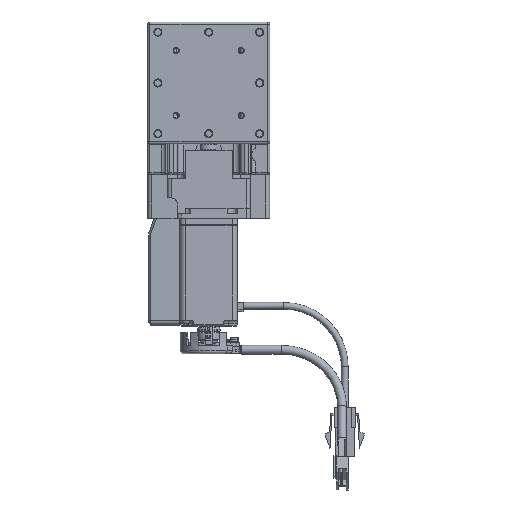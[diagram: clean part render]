
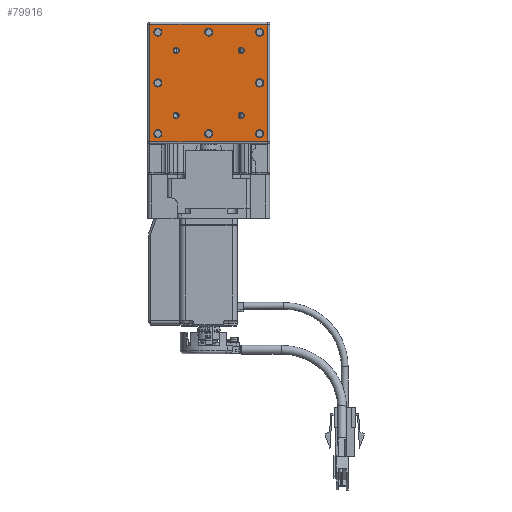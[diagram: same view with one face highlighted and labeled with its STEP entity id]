
A CAD part, top view. The second image highlights one B-rep face of the part: STEP entity #79916.
In plain terms, the highlighted planar face has unit normal (0, 0, 1) as drawn and (0, 1, 0) by its records, which use the part's own axes.
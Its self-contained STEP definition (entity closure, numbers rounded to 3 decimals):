
#1370=LINE('',#121901,#10649);
#1371=LINE('',#121904,#10650);
#1372=LINE('',#121906,#10651);
#1373=LINE('',#121908,#10652);
#10649=VECTOR('',#100546,1000.);
#10650=VECTOR('',#100547,1000.);
#10651=VECTOR('',#100548,1000.);
#10652=VECTOR('',#100549,1000.);
#19866=PLANE('',#94323);
#23331=ORIENTED_EDGE('',*,*,#46875,.F.);
#23332=ORIENTED_EDGE('',*,*,#46878,.F.);
#23333=ORIENTED_EDGE('',*,*,#46881,.F.);
#23334=ORIENTED_EDGE('',*,*,#46884,.F.);
#23335=ORIENTED_EDGE('',*,*,#46887,.F.);
#23336=ORIENTED_EDGE('',*,*,#46890,.F.);
#23337=ORIENTED_EDGE('',*,*,#46893,.F.);
#23338=ORIENTED_EDGE('',*,*,#46896,.F.);
#23339=ORIENTED_EDGE('',*,*,#46899,.F.);
#23340=ORIENTED_EDGE('',*,*,#46902,.F.);
#23341=ORIENTED_EDGE('',*,*,#46906,.F.);
#23342=ORIENTED_EDGE('',*,*,#46910,.F.);
#23343=ORIENTED_EDGE('',*,*,#47007,.T.);
#23344=ORIENTED_EDGE('',*,*,#47008,.T.);
#23345=ORIENTED_EDGE('',*,*,#47009,.T.);
#23346=ORIENTED_EDGE('',*,*,#47010,.T.);
#46875=EDGE_CURVE('',#58750,#58750,#66726,.T.);
#46878=EDGE_CURVE('',#58753,#58753,#66729,.T.);
#46881=EDGE_CURVE('',#58756,#58756,#66732,.T.);
#46884=EDGE_CURVE('',#58759,#58759,#66735,.T.);
#46887=EDGE_CURVE('',#58762,#58762,#66738,.T.);
#46890=EDGE_CURVE('',#58765,#58765,#66741,.T.);
#46893=EDGE_CURVE('',#58768,#58768,#66744,.T.);
#46896=EDGE_CURVE('',#58771,#58771,#66747,.T.);
#46899=EDGE_CURVE('',#58774,#58774,#66750,.T.);
#46902=EDGE_CURVE('',#58777,#58777,#66753,.T.);
#46906=EDGE_CURVE('',#58781,#58781,#66757,.T.);
#46910=EDGE_CURVE('',#58785,#58785,#66761,.T.);
#47007=EDGE_CURVE('',#58858,#58859,#1370,.T.);
#47008=EDGE_CURVE('',#58859,#58860,#1371,.T.);
#47009=EDGE_CURVE('',#58860,#58861,#1372,.T.);
#47010=EDGE_CURVE('',#58861,#58858,#1373,.T.);
#58750=VERTEX_POINT('',#121613);
#58753=VERTEX_POINT('',#121621);
#58756=VERTEX_POINT('',#121629);
#58759=VERTEX_POINT('',#121637);
#58762=VERTEX_POINT('',#121645);
#58765=VERTEX_POINT('',#121653);
#58768=VERTEX_POINT('',#121661);
#58771=VERTEX_POINT('',#121669);
#58774=VERTEX_POINT('',#121677);
#58777=VERTEX_POINT('',#121685);
#58781=VERTEX_POINT('',#121695);
#58785=VERTEX_POINT('',#121705);
#58858=VERTEX_POINT('',#121902);
#58859=VERTEX_POINT('',#121903);
#58860=VERTEX_POINT('',#121905);
#58861=VERTEX_POINT('',#121907);
#66726=CIRCLE('',#94223,2.);
#66729=CIRCLE('',#94228,2.);
#66732=CIRCLE('',#94233,2.);
#66735=CIRCLE('',#94238,2.);
#66738=CIRCLE('',#94243,2.);
#66741=CIRCLE('',#94248,2.);
#66744=CIRCLE('',#94253,2.);
#66747=CIRCLE('',#94258,2.);
#66750=CIRCLE('',#94263,1.5);
#66753=CIRCLE('',#94268,1.5);
#66757=CIRCLE('',#94274,1.5);
#66761=CIRCLE('',#94280,1.5);
#68630=EDGE_LOOP('',(#23331));
#68631=EDGE_LOOP('',(#23332));
#68632=EDGE_LOOP('',(#23333));
#68633=EDGE_LOOP('',(#23334));
#68634=EDGE_LOOP('',(#23335));
#68635=EDGE_LOOP('',(#23336));
#68636=EDGE_LOOP('',(#23337));
#68637=EDGE_LOOP('',(#23338));
#68638=EDGE_LOOP('',(#23339));
#68639=EDGE_LOOP('',(#23340));
#68640=EDGE_LOOP('',(#23341));
#68641=EDGE_LOOP('',(#23342));
#68642=EDGE_LOOP('',(#23343,#23344,#23345,#23346));
#73865=FACE_BOUND('',#68630,.T.);
#73866=FACE_BOUND('',#68631,.T.);
#73867=FACE_BOUND('',#68632,.T.);
#73868=FACE_BOUND('',#68633,.T.);
#73869=FACE_BOUND('',#68634,.T.);
#73870=FACE_BOUND('',#68635,.T.);
#73871=FACE_BOUND('',#68636,.T.);
#73872=FACE_BOUND('',#68637,.T.);
#73873=FACE_BOUND('',#68638,.T.);
#73874=FACE_BOUND('',#68639,.T.);
#73875=FACE_BOUND('',#68640,.T.);
#73876=FACE_BOUND('',#68641,.T.);
#73877=FACE_BOUND('',#68642,.T.);
#79916=ADVANCED_FACE('',(#73865,#73866,#73867,#73868,#73869,#73870,#73871,
#73872,#73873,#73874,#73875,#73876,#73877),#19866,.F.);
#94223=AXIS2_PLACEMENT_3D('',#121612,#100264,#100265);
#94228=AXIS2_PLACEMENT_3D('',#121620,#100274,#100275);
#94233=AXIS2_PLACEMENT_3D('',#121628,#100284,#100285);
#94238=AXIS2_PLACEMENT_3D('',#121636,#100294,#100295);
#94243=AXIS2_PLACEMENT_3D('',#121644,#100304,#100305);
#94248=AXIS2_PLACEMENT_3D('',#121652,#100314,#100315);
#94253=AXIS2_PLACEMENT_3D('',#121660,#100324,#100325);
#94258=AXIS2_PLACEMENT_3D('',#121668,#100334,#100335);
#94263=AXIS2_PLACEMENT_3D('',#121676,#100344,#100345);
#94268=AXIS2_PLACEMENT_3D('',#121684,#100354,#100355);
#94274=AXIS2_PLACEMENT_3D('',#121694,#100366,#100367);
#94280=AXIS2_PLACEMENT_3D('',#121704,#100378,#100379);
#94323=AXIS2_PLACEMENT_3D('',#121900,#100544,#100545);
#100264=DIRECTION('',(0.,1.,0.));
#100265=DIRECTION('',(0.,0.,-1.));
#100274=DIRECTION('',(0.,1.,0.));
#100275=DIRECTION('',(0.,0.,-1.));
#100284=DIRECTION('',(0.,1.,0.));
#100285=DIRECTION('',(0.,0.,-1.));
#100294=DIRECTION('',(0.,1.,0.));
#100295=DIRECTION('',(0.,0.,-1.));
#100304=DIRECTION('',(0.,1.,0.));
#100305=DIRECTION('',(0.,0.,-1.));
#100314=DIRECTION('',(0.,1.,0.));
#100315=DIRECTION('',(0.,0.,-1.));
#100324=DIRECTION('',(0.,1.,0.));
#100325=DIRECTION('',(0.,0.,-1.));
#100334=DIRECTION('',(0.,1.,0.));
#100335=DIRECTION('',(0.,0.,-1.));
#100344=DIRECTION('',(0.,1.,0.));
#100345=DIRECTION('',(0.,0.,-1.));
#100354=DIRECTION('',(0.,1.,0.));
#100355=DIRECTION('',(0.,0.,-1.));
#100366=DIRECTION('',(0.,1.,0.));
#100367=DIRECTION('',(0.,0.,-1.));
#100378=DIRECTION('',(0.,1.,0.));
#100379=DIRECTION('',(0.,0.,-1.));
#100544=DIRECTION('',(0.,-1.,0.));
#100545=DIRECTION('',(0.,0.,1.));
#100546=DIRECTION('',(0.,0.,1.));
#100547=DIRECTION('',(1.,0.,0.));
#100548=DIRECTION('',(0.,0.,-1.));
#100549=DIRECTION('',(-1.,0.,0.));
#121612=CARTESIAN_POINT('',(25.,30.,55.));
#121613=CARTESIAN_POINT('',(25.,30.,53.));
#121620=CARTESIAN_POINT('',(25.,30.,30.));
#121621=CARTESIAN_POINT('',(25.,30.,28.));
#121628=CARTESIAN_POINT('',(25.,30.,5.));
#121629=CARTESIAN_POINT('',(25.,30.,3.));
#121636=CARTESIAN_POINT('',(-25.,30.,5.));
#121637=CARTESIAN_POINT('',(-25.,30.,3.));
#121644=CARTESIAN_POINT('',(-25.,30.,30.));
#121645=CARTESIAN_POINT('',(-25.,30.,28.));
#121652=CARTESIAN_POINT('',(-25.,30.,55.));
#121653=CARTESIAN_POINT('',(-25.,30.,53.));
#121660=CARTESIAN_POINT('',(0.,30.,55.));
#121661=CARTESIAN_POINT('',(0.,30.,53.));
#121668=CARTESIAN_POINT('',(0.,30.,5.));
#121669=CARTESIAN_POINT('',(0.,30.,3.));
#121676=CARTESIAN_POINT('',(16.,30.,46.));
#121677=CARTESIAN_POINT('',(16.,30.,44.5));
#121684=CARTESIAN_POINT('',(16.,30.,14.));
#121685=CARTESIAN_POINT('',(16.,30.,12.5));
#121694=CARTESIAN_POINT('',(-16.,30.,46.));
#121695=CARTESIAN_POINT('',(-16.,30.,44.5));
#121704=CARTESIAN_POINT('',(-16.,30.,14.));
#121705=CARTESIAN_POINT('',(-16.,30.,12.5));
#121900=CARTESIAN_POINT('',(20.,30.,0.));
#121901=CARTESIAN_POINT('',(-29.,30.,0.));
#121902=CARTESIAN_POINT('',(-29.,30.,1.));
#121903=CARTESIAN_POINT('',(-29.,30.,59.));
#121904=CARTESIAN_POINT('',(30.,30.,59.));
#121905=CARTESIAN_POINT('',(29.,30.,59.));
#121906=CARTESIAN_POINT('',(29.,30.,0.));
#121907=CARTESIAN_POINT('',(29.,30.,1.));
#121908=CARTESIAN_POINT('',(20.,30.,1.));
